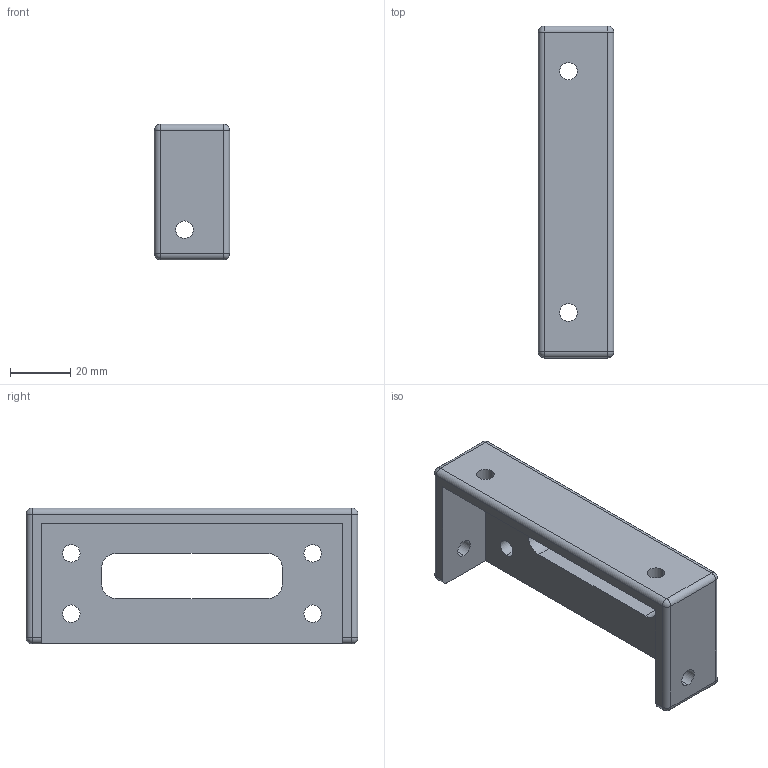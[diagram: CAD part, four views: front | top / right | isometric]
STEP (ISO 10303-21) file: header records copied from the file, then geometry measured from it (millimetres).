
FILE_DESCRIPTION (( 'STEP AP203' ), '1' );
FILE_NAME ('LOWER CORNER BRACKETS.STEP', '2012-08-20T19:21:12', ( '' ), ( '' ), 'SwSTEP 2.0', 'SolidWorks 2012', '' );
FILE_SCHEMA (( 'CONFIG_CONTROL_DESIGN' ));
Length unit declared in the file: millimetre
Products named in the file (1): LOWER CORNER BRACKETS
Bounding box: 25 x 110 x 45 mm (x, y, z)
Volume: 37779 mm3; surface area: 17967.7 mm2
Topology: 1 solids, 1 shells, 55 faces, 143 edges, 82 vertices
Faces by surface type: cylinder 33, plane 14, sphere 8
Entity records: 1736 total; most frequent: DIRECTION 313, CARTESIAN_POINT 273, ORIENTED_EDGE 270, EDGE_CURVE 135, AXIS2_PLACEMENT_3D 122, VERTEX_POINT 82, EDGE_LOOP 73, VECTOR 69
